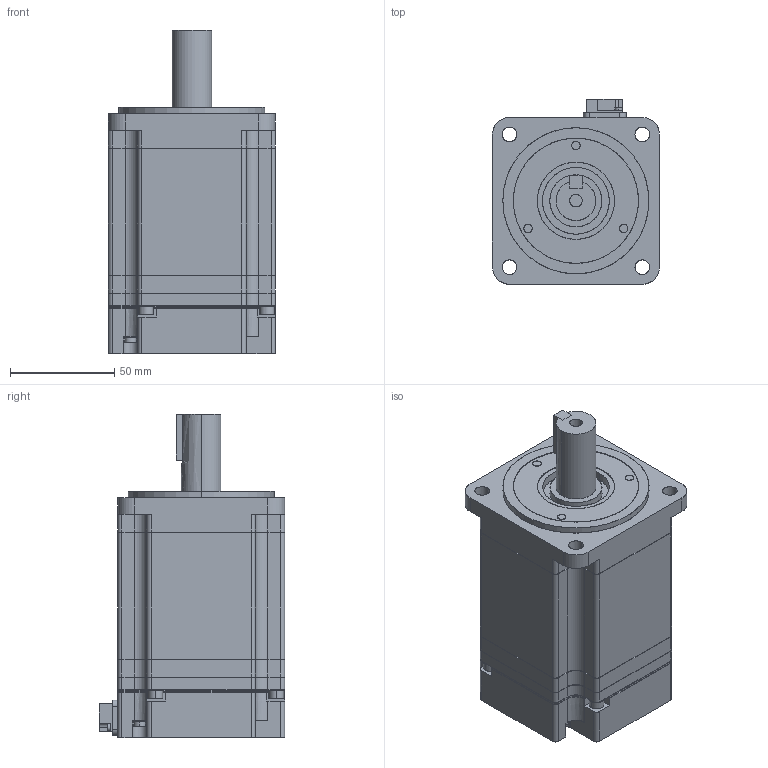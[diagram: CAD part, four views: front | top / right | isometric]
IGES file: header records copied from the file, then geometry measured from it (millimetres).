
Start section: SolidWorks IGES file using analytic representation for surfaces
Global section: file name: D:\YASKAWA\sgmjv_08a3m61.IGS; native system: SolidWorks 2006 by SolidWorks Corporation; preprocessor: SolidWorks 2006 by SolidWorks Corporation; author: yamanouchi; date: 141021.105514; units: millimetre
Bounding box: 80.1 x 88.8 x 155.1 mm (x, y, z)
Surface area: 58610.9 mm2 (no closed solid volume)
Topology: 0 solids, 0 shells, 491 faces, 6881 edges, 6881 vertices
Faces by surface type: bspline 278, revolution 213
